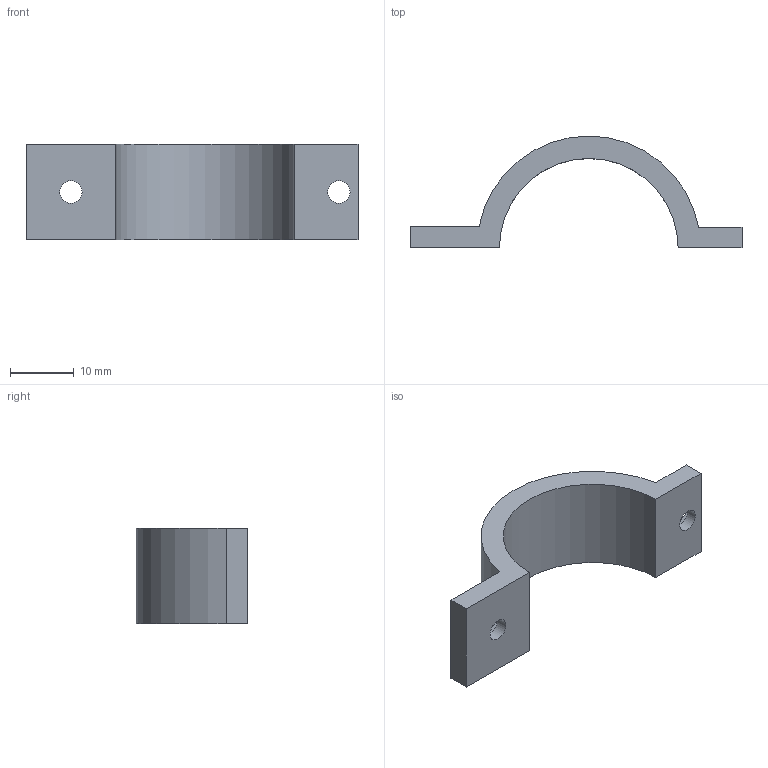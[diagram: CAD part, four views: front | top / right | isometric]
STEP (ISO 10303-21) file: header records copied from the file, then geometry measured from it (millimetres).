
FILE_DESCRIPTION(/* description */ (''),/* implementation_level */ '2;1');
FILE_NAME(/* name */ 'C:/Users/you/Desktop/自転車リフレクタ支え（short) v1 v1.step',/* time_stamp */ '2018-11-24T17:44:02+09:00',/* author */ ('yoshimura12345'),/* organization */ (''),/* preprocessor_version */ 'ST-DEVELOPER v17.2',/* originating_system */ 'Autodesk Translation Framework v7.6.0.251',/* authorisation */ '');
FILE_SCHEMA (('AUTOMOTIVE_DESIGN { 1 0 10303 214 3 1 1 }'));
Length unit declared in the file: millimetre
Products named in the file (1): 自転車リフレクタ支え（shor
t) v1
Bounding box: 52 x 17.5 x 15 mm (x, y, z)
Volume: 3334.3 mm3; surface area: 2630.7 mm2
Topology: 1 solids, 1 shells, 26 faces, 66 edges, 44 vertices
Faces by surface type: plane 22, cylinder 4
Full cylindrical faces by diameter (mm): 3.5 x2
Entity records: 819 total; most frequent: CARTESIAN_POINT 137, ORIENTED_EDGE 132, DIRECTION 128, EDGE_CURVE 66, LINE 58, VECTOR 58, VERTEX_POINT 44, AXIS2_PLACEMENT_3D 35
